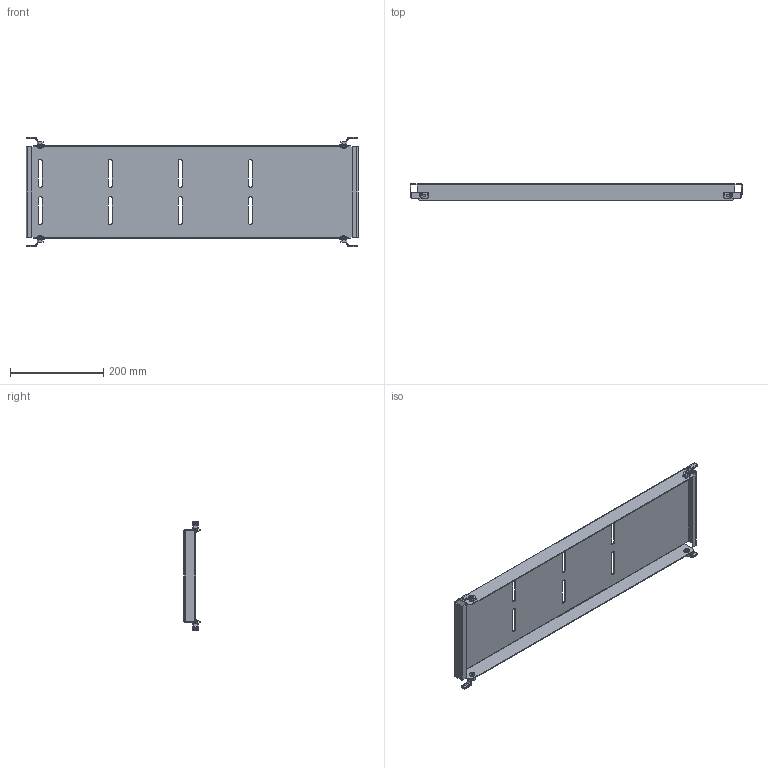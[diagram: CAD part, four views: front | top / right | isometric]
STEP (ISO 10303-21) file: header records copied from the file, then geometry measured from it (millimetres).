
FILE_DESCRIPTION(('CAx-IF Rec.Pracs.---Model Styling and Organization---1.2---2011-12-15','CAx-IF Rec.Pracs.---Geometric and Assembly Validation Properties---4.1---2014-06-16','CAx-IF Rec.Pracs.---PMI Polyline Presentation---2.0---2013-05-24'),'2;1');
FILE_NAME('R5D5380.stp','2021-05-05T15:02:21+03:00',(''),(''),'STEP Interface 4.4 by CT CoreTechnologie','3D_Evolution4.4 by CT CoreTechnologie','');
FILE_SCHEMA(('AUTOMOTIVE_DESIGN { 1 0 10303 214 1 1 1 1 }'));
Length unit declared in the file: millimetre
Products named in the file (4): R5D5380; M6x16-DIN 7985 ISR_thread; AC00C485; RB.0703.00.00.0_-01
Assembly tree (9 placements, depth 2):
  R5D5380
    M6x16-DIN 7985 ISR_thread  x4
    AC00C485  x4
    RB.0703.00.00.0_-01
Bounding box: 711 x 35 x 235 mm (x, y, z)
Surface area: 399333.4 mm2 (no closed solid volume)
Topology: 0 solids, 13 shells, 456 faces, 1130 edges, 688 vertices
Faces by surface type: plane 204, cylinder 196, bspline 56
Entity records: 6176 total; most frequent: CARTESIAN_POINT 1447, DIRECTION 953, ORIENTED_EDGE 920, EDGE_CURVE 460, AXIS2_PLACEMENT_3D 328, VECTOR 297, LINE 297, VERTEX_POINT 286
